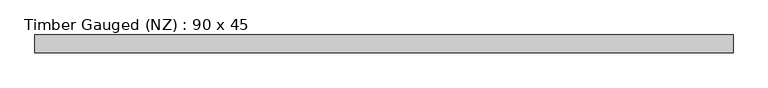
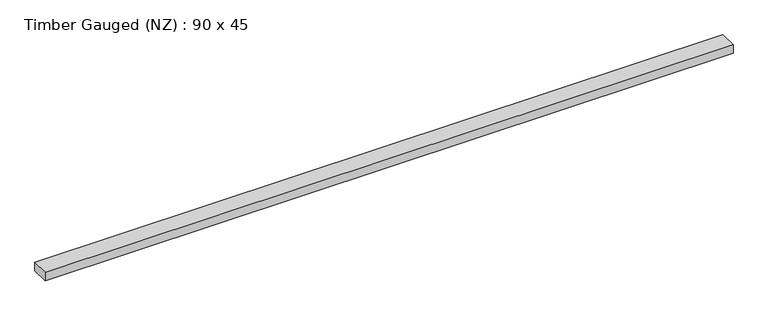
"""IFC4 building model written with IfcOpenShell, lengths in millimetres: beam geometry, Timber Gauged (NZ) : 90 x 45."""

import ifcopenshell
import ifcopenshell.guid

model = None  # the IFC model being written
_history = None  # IfcOwnerHistory: only IFC2X3 demands one
_inside = {}  # id of a spatial element -> (the spatial element, [elements in it])
_under = {}  # id of a project, library or spatial element -> (it, [spatial elements below it])
_declared = {}  # id of a project -> (the project, [libraries it declares])
_typed = {}  # id of a type object -> (the type object, [elements of that type])
_made_of = {}  # id of a material, layer set ... -> (it, [elements and type objects made of it])


def new_model(schema):
    """Start an empty IFC model of exactly this schema.

    Asked for "IFC4X3", IfcOpenShell would pick the latest addendum, in which some entities
    have other attributes; the version numbers below select the first issue.
    IFC2X3 requires an IfcOwnerHistory on every rooted entity: one is made here for all.
    """
    global model, _history
    if schema == "IFC4X3":
        model = ifcopenshell.file(schema_version=(4, 3, 0, 0))
    else:
        model = ifcopenshell.file(schema=schema)
    _inside.clear()
    _under.clear()
    _declared.clear()
    _typed.clear()
    _made_of.clear()
    _history = None
    if model.schema == "IFC2X3":
        org = make("IfcOrganization", Name="unknown")
        user = make(
            "IfcPersonAndOrganization",
            ThePerson=make("IfcPerson", FamilyName="unknown"),
            TheOrganization=org,
        )
        app = make(
            "IfcApplication",
            ApplicationDeveloper=org,
            Version="unknown",
            ApplicationFullName="unknown",
            ApplicationIdentifier="unknown",
        )
        _history = make(
            "IfcOwnerHistory",
            OwningUser=user,
            OwningApplication=app,
            ChangeAction="ADDED",
            CreationDate=0,
        )
    return model


def make(cls, **values):
    """One entity of the class cls with the attributes given. An attribute that is None is left unset."""
    return model.create_entity(
        cls, **{name: value for name, value in values.items() if value is not None}
    )


def rooted(cls, **values):
    """An entity with a GlobalId (a new one), such as an element, a storey or a relation."""
    return make(cls, GlobalId=ifcopenshell.guid.new(), OwnerHistory=_history, **values)


def si_unit(unit_type, name, prefix=None):
    """IfcSIUnit, for example si_unit("LENGTHUNIT", "METRE", prefix="MILLI")."""
    return make("IfcSIUnit", UnitType=unit_type, Prefix=prefix, Name=name)


def assignment(units):
    """IfcUnitAssignment: the units of a project."""
    return None if units is None else make("IfcUnitAssignment", Units=units)


def point(xyz):
    """IfcCartesianPoint."""
    return None if xyz is None else make("IfcCartesianPoint", Coordinates=xyz)


def direction(xyz):
    """IfcDirection."""
    return None if xyz is None else make("IfcDirection", DirectionRatios=xyz)


def frame(location, z_axis=None, x_axis=None):
    """IfcAxis2Placement3D, a coordinate frame: its origin and axes. An axis left out is left unset."""
    return make(
        "IfcAxis2Placement3D",
        Location=point(location),
        Axis=direction(z_axis),
        RefDirection=direction(x_axis),
    )


def origin():
    """The frame at (0, 0, 0) with its axes left unset."""
    return frame((0.0, 0.0, 0.0))


def place(relative_to, where):
    """IfcLocalPlacement: puts the frame where relative to a parent placement (None: the world)."""
    return make(
        "IfcLocalPlacement", PlacementRelTo=relative_to, RelativePlacement=where
    )


def context(
    kind, dimensions, precision=None, world=None, true_north=None, identifier=None
):
    """IfcGeometricRepresentationContext, for example the 3D "Model" context."""
    return make(
        "IfcGeometricRepresentationContext",
        ContextIdentifier=identifier,
        ContextType=kind,
        CoordinateSpaceDimension=dimensions,
        Precision=precision,
        WorldCoordinateSystem=world,
        TrueNorth=true_north,
    )


def project(units=None, contexts=None):
    """IfcProject with its units and contexts."""
    return rooted(
        "IfcProject",
        Name="project",
        RepresentationContexts=contexts,
        UnitsInContext=assignment(units),
    )


def spatial(cls, under=None, at=None, **own):
    """A site, building, storey or space (cls), placed at a placement, below another one or the project."""
    s = rooted(cls, ObjectPlacement=at, **own)
    if under is not None:
        _under.setdefault(under.id(), (under, []))[1].append(s)
    return s


def polyline(points):
    """IfcPolyline through the points."""
    return make("IfcPolyline", Points=[point(p) for p in points])


def outline(outer, holes=None, kind="AREA"):
    """IfcArbitraryClosedProfileDef: a profile drawn as a closed curve; with holes, ...WithVoids."""
    if holes is None:
        return make("IfcArbitraryClosedProfileDef", ProfileType=kind, OuterCurve=outer)
    return make(
        "IfcArbitraryProfileDefWithVoids",
        ProfileType=kind,
        OuterCurve=outer,
        InnerCurves=holes,
    )


def extrude(swept, where, along, depth):
    """IfcExtrudedAreaSolid: the profile swept, set in the frame where, extruded along a direction by depth."""
    return make(
        "IfcExtrudedAreaSolid",
        SweptArea=swept,
        Position=where,
        ExtrudedDirection=direction(along),
        Depth=depth,
    )


def shape(context_of_items, identifier, shape_type, items):
    """IfcShapeRepresentation: the items that make up one representation, for example the "Body"."""
    return make(
        "IfcShapeRepresentation",
        ContextOfItems=context_of_items,
        RepresentationIdentifier=identifier,
        RepresentationType=shape_type,
        Items=items,
    )


def source(mapping_origin, context_of_items, identifier, shape_type, items):
    """IfcRepresentationMap: a shape defined once, which mapped items show again and again."""
    return make(
        "IfcRepresentationMap",
        MappingOrigin=mapping_origin,
        MappedRepresentation=shape(context_of_items, identifier, shape_type, items),
    )


def transform(
    local_origin,
    x_axis=None,
    y_axis=None,
    z_axis=None,
    scale=None,
    scale2=None,
    scale3=None,
    uniform=True,
):
    """IfcCartesianTransformationOperator3D, or its non-uniform kind. x_axis, y_axis, z_axis: its Axis1, 2, 3."""
    if uniform:
        return make(
            "IfcCartesianTransformationOperator3D",
            Axis1=direction(x_axis),
            Axis2=direction(y_axis),
            LocalOrigin=point(local_origin),
            Scale=scale,
            Axis3=direction(z_axis),
        )
    return make(
        "IfcCartesianTransformationOperator3DnonUniform",
        Axis1=direction(x_axis),
        Axis2=direction(y_axis),
        LocalOrigin=point(local_origin),
        Scale=scale,
        Axis3=direction(z_axis),
        Scale2=scale2,
        Scale3=scale3,
    )


def mapped(mapping_source, mapping_target):
    """IfcMappedItem: shows the shape of a source again, moved by a transform."""
    return make(
        "IfcMappedItem", MappingSource=mapping_source, MappingTarget=mapping_target
    )


def made_of(thing, what):
    """Note that an element or type object is made of a material, layer set ...; save() writes the relation."""
    if what is not None:
        _made_of.setdefault(what.id(), (what, []))[1].append(thing)
    return thing


def element(
    cls,
    number,
    at=None,
    inside=None,
    cuts=None,
    type_object=None,
    material=None,
    context=None,
    identifier="Body",
    shape_type=None,
    held_by="IfcProductDefinitionShape",
    body=None,
    shapes=None,
    **own,
):
    """One element of the class cls, such as IfcWall. Its Tag is "e" and its number.

    at: its placement. inside: the storey or other place that contains it. cuts: it is an
    opening in that element (IfcRelVoidsElement). A single representation is given by context,
    identifier, shape_type and body (its items); several are given by shapes. held_by: the class
    of the entity that holds the representations. save() writes the other relations.
    """
    e = rooted(cls, Tag="e%d" % number, ObjectPlacement=at, **own)
    if body is not None:
        shapes = [shape(context, identifier, shape_type, body)]
    if shapes is not None:
        e.Representation = make(held_by, Representations=shapes)
    if inside is not None:
        _inside.setdefault(inside.id(), (inside, []))[1].append(e)
    if cuts is not None:
        rooted(
            "IfcRelVoidsElement", RelatingBuildingElement=cuts, RelatedOpeningElement=e
        )
    if type_object is not None:
        _typed.setdefault(type_object.id(), (type_object, []))[1].append(e)
    return made_of(e, material)


def aggregate(whole, parts):
    """IfcRelAggregates: a whole, such as a stair, and the parts it consists of."""
    return rooted("IfcRelAggregates", RelatingObject=whole, RelatedObjects=parts)


def save(model, path):
    """Write the relations noted so far, then the file.

    IfcRelAggregates (storeys below a building ...), IfcRelContainedInSpatialStructure (elements
    in a storey), IfcRelDefinesByType, IfcRelAssociatesMaterial and IfcRelDeclares: one each for
    every whole, place, type object, material and project.
    """
    for whole, parts in _under.values():
        aggregate(whole, parts)
    for where, things in _inside.values():
        rooted(
            "IfcRelContainedInSpatialStructure",
            RelatedElements=things,
            RelatingStructure=where,
        )
    for kind, things in _typed.values():
        rooted("IfcRelDefinesByType", RelatedObjects=things, RelatingType=kind)
    for what, things in _made_of.values():
        rooted("IfcRelAssociatesMaterial", RelatedObjects=things, RelatingMaterial=what)
    for by, libraries in _declared.values():
        rooted("IfcRelDeclares", RelatingContext=by, RelatedDefinitions=libraries)
    model.write(path)


def timber_gauged_nz_90_x_45_dd1617d6(model_context):
    return source(origin(), model_context, "Body", "SweptSolid", [
        extrude(outline(polyline([(1786.3626645, 45.0), (1786.3626645, -45.0), (-1742.2973994, -45.0), (-1742.2973994, 45.0), (1786.3626645, 45.0)])), frame((0.0, 0.0, -22.5), z_axis=(0.0, 0.0, 1.0), x_axis=(1.0, 0.0, 0.0)), (0.0, 0.0, 1.0), 45.0),
    ])


if __name__ == "__main__":
    model = new_model("IFC4")
    model_context = context("Model", 3, world=origin())
    ifc_project = project(units=[si_unit("LENGTHUNIT", "METRE", prefix="MILLI")], contexts=[model_context])
    site = spatial("IfcSite", under=ifc_project)
    building = spatial("IfcBuilding", under=site)
    placement = place(None, origin())
    timber_gauged_nz_90_x_45_shape = timber_gauged_nz_90_x_45_dd1617d6(model_context)
    element("IfcBeam", 1, ObjectType="Timber Gauged (NZ) : 90 x 45", at=placement, inside=building, context=model_context, shape_type="MappedRepresentation", body=[
        mapped(timber_gauged_nz_90_x_45_shape, transform((0.0, 0.0, 0.0), x_axis=(1.0, 0.0, 0.0), y_axis=(0.0, 1.0, 0.0), z_axis=(0.0, 0.0, 1.0))),
    ])
    save(model, "model.ifc")
